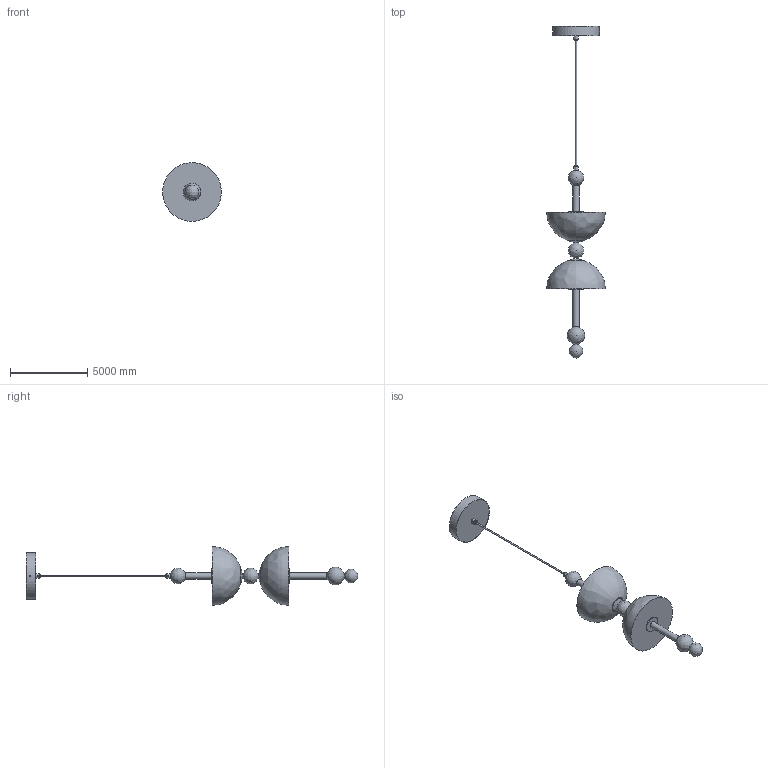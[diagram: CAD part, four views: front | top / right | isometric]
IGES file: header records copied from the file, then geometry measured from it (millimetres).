
Global section: file name: Lyra Alabaster Pendant Lamp-D5.9″,4; native system: 8HAutoCAD 2022 - 简体中文 (Simplified Chinese); preprocessor: Autodesk Translation Framework DWG producer (atf_dwg_producer); organization: unknown; date: 20251118.154023; units: inch
Bounding box: 3806.18 x 21548.15 x 3807.47 mm (x, y, z)
Volume: 32333213564.2 mm3; surface area: 123750950.9 mm2
Topology: 16 solids, 16 shells, 54 faces, 111 edges, 84 vertices
Faces by surface type: bspline 54
